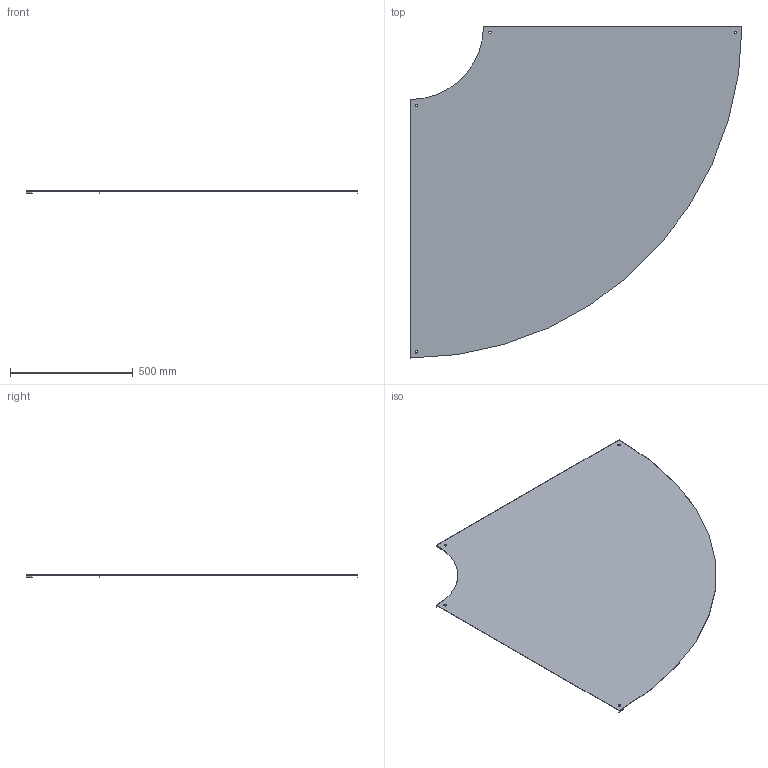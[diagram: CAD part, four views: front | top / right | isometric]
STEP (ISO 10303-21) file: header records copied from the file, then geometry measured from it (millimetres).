
FILE_DESCRIPTION(/* description */ ('','CAx-IF Rec.Pracs.---Representation and Presentation of Product Manufacturing Information (PMI)---4.0---2014-10-13'),/* implementation_level */ '2;1');
FILE_NAME(/* name */ 'Eurostrut_EFBC1000-90-300_Cover Bend 90 for Cable Ladder ECL.step',/* time_stamp */ '2026-09-10T08:56:31+02:00',/* author */ (''),/* organization */ (''),/* preprocessor_version */ 'ST-DEVELOPER v20.1',/* originating_system */ 'Autodesk Revit 2027 27.2.0.39',/* authorisation */ '');
FILE_SCHEMA (('AP242_MANAGED_MODEL_BASED_3D_ENGINEERING_MIM_LF { 1 0 10303 442 2 1 4 }'));
Length unit declared in the file: millimetre
Products named in the file (5): TopLevelAssembly; Sweep; Sweep_1; Joined Solid Geometry; Joined Solid Geometry_1
Assembly tree (4 placements, depth 2):
  TopLevelAssembly
    Sweep
    Sweep_1
    Joined Solid Geometry
    Joined Solid Geometry_1
Bounding box: 1352.5 x 1352.5 x 9 mm (x, y, z)
Volume: 2050743.5 mm3; surface area: 2742058.2 mm2
Topology: 9 solids, 9 shells, 66 faces, 144 edges, 96 vertices
Faces by surface type: plane 48, cylinder 18
Entity records: 1904 total; most frequent: DIRECTION 330, CARTESIAN_POINT 315, ORIENTED_EDGE 288, EDGE_CURVE 144, AXIS2_PLACEMENT_3D 111, LINE 108, VECTOR 108, VERTEX_POINT 96
